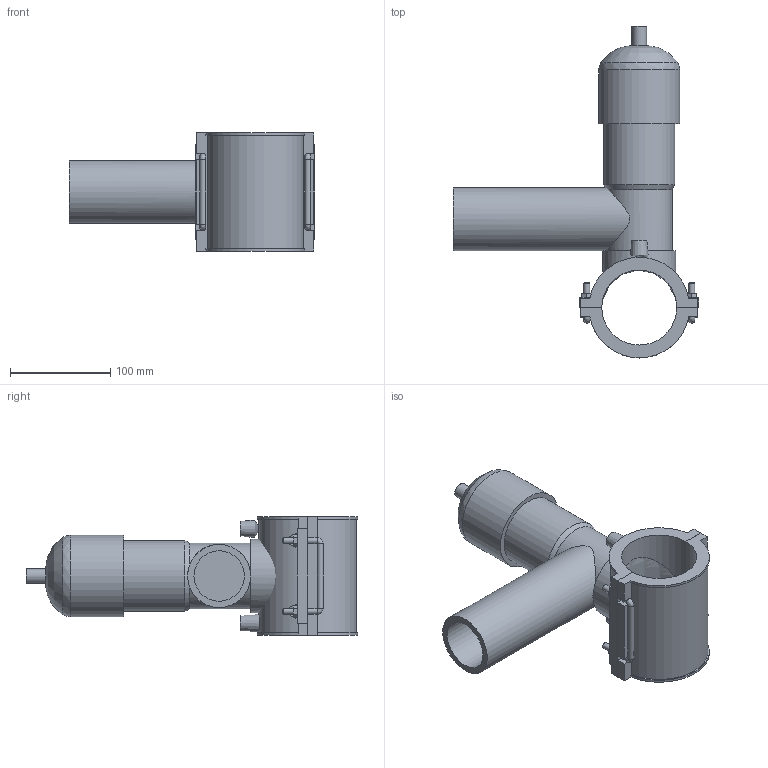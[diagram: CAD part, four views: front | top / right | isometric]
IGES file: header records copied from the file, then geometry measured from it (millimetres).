
Global section: file name: 495404075063.ipt; native system: Autodesk Inventor 2015; preprocessor: unknown; author: KIM; date: 20171106.094241; units: millimetre
Bounding box: 245.5 x 331.71 x 118 mm (x, y, z)
Volume: 1479476.3 mm3; surface area: 220718.1 mm2
Topology: 3 solids, 3 shells, 141 faces, 357 edges, 225 vertices
Faces by surface type: plane 89, cylinder 25, revolution 12, bspline 8, cone 7
Full cylindrical faces by diameter (mm): 4 x2, 6 x10, 14.64 x1, 63 x1, 70.76 x1, 73.2 x1, 81.333 x1
